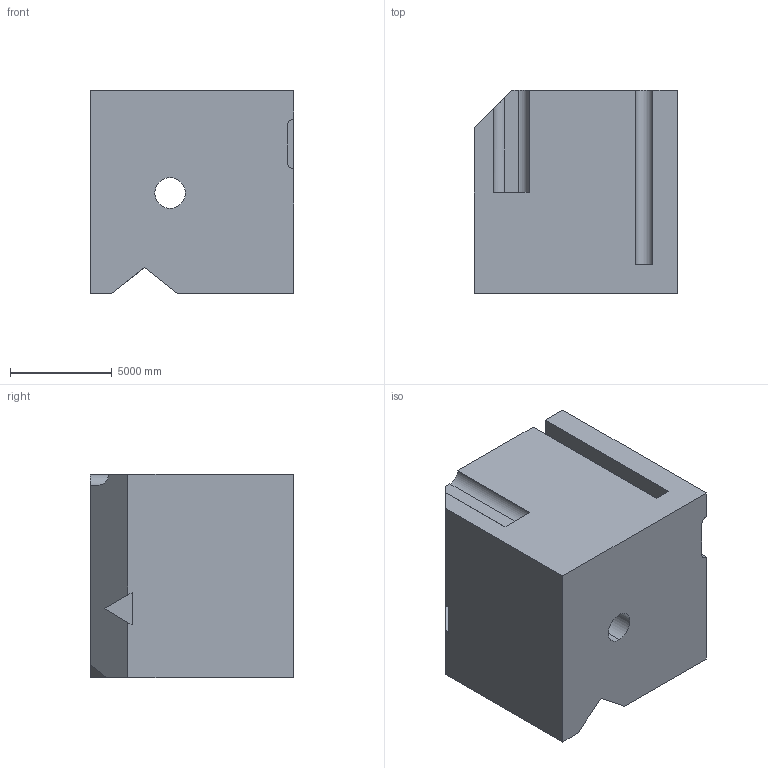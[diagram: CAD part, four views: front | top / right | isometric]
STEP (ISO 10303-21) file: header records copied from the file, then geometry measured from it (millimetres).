
FILE_DESCRIPTION (( 'STEP AP203' ), '1' );
FILE_NAME ('79.STEP', '2022-08-30T14:25:38', ( 'user' ), ( '' ), 'SwSTEP 2.0', 'SolidWorks 2021', '' );
FILE_SCHEMA (( 'CONFIG_CONTROL_DESIGN' ));
Length unit declared in the file: centimetre
Products named in the file (1): 79
Bounding box: 10000 x 10000 x 10000 mm (x, y, z)
Volume: 892934698542.4 mm3; surface area: 762525426.3 mm2
Topology: 1 solids, 1 shells, 33 faces, 93 edges, 62 vertices
Faces by surface type: plane 26, cylinder 7
Entity records: 1141 total; most frequent: CARTESIAN_POINT 192, ORIENTED_EDGE 186, DIRECTION 173, EDGE_CURVE 93, VECTOR 79, LINE 79, VERTEX_POINT 62, AXIS2_PLACEMENT_3D 47
